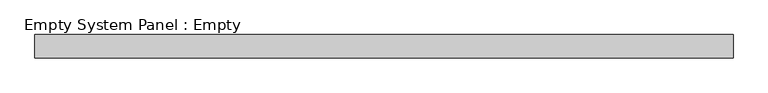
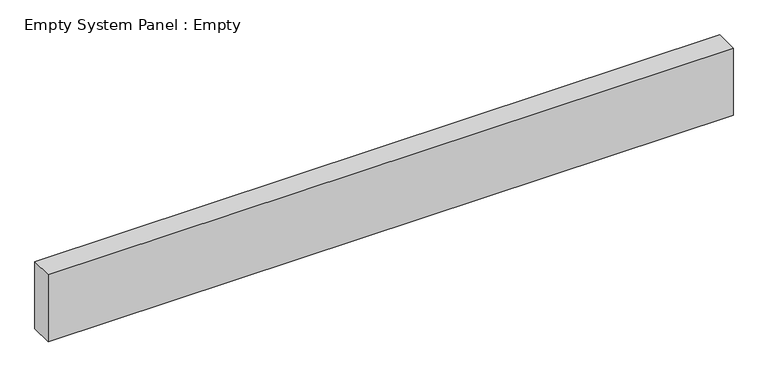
"""IFC4 building model written with IfcOpenShell, lengths in millimetres: plate geometry, Empty System Panel : Empty."""

from ifc_helpers import new_model, si_unit, origin, origin_with_axes, place, context, project, spatial, polyline, outline, extrude, source, transform, mapped, element, save


def empty_system_panel_empty_f3cf44e5(model_context):
    return source(origin(), model_context, "Body", "SweptSolid", [
        extrude(outline(polyline([(1500.0, -50.0), (-1500.0, -50.0), (-1500.0, 50.0), (1500.0, 50.0), (1500.0, -50.0)])), origin_with_axes(), (0.0, 0.0, 1.0), 310.9045456),
    ])


if __name__ == "__main__":
    model = new_model("IFC4")
    model_context = context("Model", 3, world=origin())
    ifc_project = project(units=[si_unit("LENGTHUNIT", "METRE", prefix="MILLI")], contexts=[model_context])
    site = spatial("IfcSite", under=ifc_project)
    building = spatial("IfcBuilding", under=site)
    placement = place(None, origin())
    empty_system_panel_empty_shape = empty_system_panel_empty_f3cf44e5(model_context)
    element("IfcPlate", 1, ObjectType="Empty System Panel : Empty", at=placement, inside=building, context=model_context, shape_type="MappedRepresentation", body=[
        mapped(empty_system_panel_empty_shape, transform((0.0, 0.0, 0.0), x_axis=(1.0, 0.0, 0.0), y_axis=(0.0, 1.0, 0.0), z_axis=(0.0, 0.0, 1.0))),
    ])
    save(model, "model.ifc")
